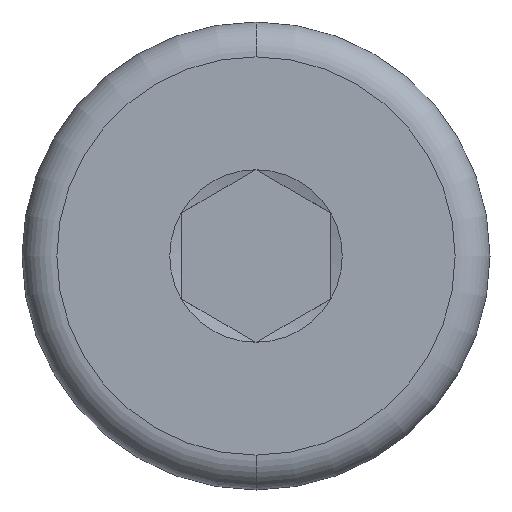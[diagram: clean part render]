
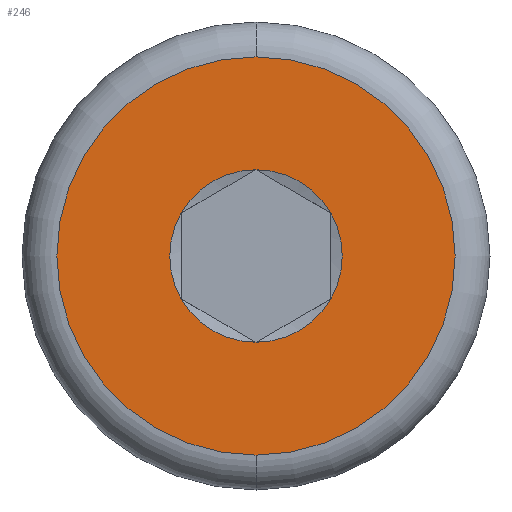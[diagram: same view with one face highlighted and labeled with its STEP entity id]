
A CAD part, left-side view. The second image highlights one B-rep face of the part: STEP entity #246.
In plain terms, the highlighted planar face has unit normal (-1, 0, 0).
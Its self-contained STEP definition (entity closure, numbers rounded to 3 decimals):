
#7 = CARTESIAN_POINT ( 'NONE',  ( 0., 0., 0. ) ) ;
#20 = CARTESIAN_POINT ( 'NONE',  ( 0., 0., 0. ) ) ;
#21 = AXIS2_PLACEMENT_3D ( 'NONE', #137, #41, #190 ) ;
#26 = FACE_OUTER_BOUND ( 'NONE', #520, .T. ) ;
#41 = DIRECTION ( 'NONE',  ( 1., 0., 0. ) ) ;
#46 = ORIENTED_EDGE ( 'NONE', *, *, #450, .T. ) ;
#81 = DIRECTION ( 'NONE',  ( 0., 0., -1. ) ) ;
#89 = CARTESIAN_POINT ( 'NONE',  ( 0., 0., 0. ) ) ;
#97 = CIRCLE ( 'NONE', #430, 4. ) ;
#106 = AXIS2_PLACEMENT_3D ( 'NONE', #255, #466, #315 ) ;
#112 = DIRECTION ( 'NONE',  ( 0., 0., -1. ) ) ;
#126 = AXIS2_PLACEMENT_3D ( 'NONE', #20, #562, #81 ) ;
#127 = ORIENTED_EDGE ( 'NONE', *, *, #476, .F. ) ;
#137 = CARTESIAN_POINT ( 'NONE',  ( 0., 0., 0. ) ) ;
#154 = ORIENTED_EDGE ( 'NONE', *, *, #301, .F. ) ;
#190 = DIRECTION ( 'NONE',  ( 0., 0., -1. ) ) ;
#196 = CARTESIAN_POINT ( 'NONE',  ( 0., 0., 1.732 ) ) ;
#209 = CARTESIAN_POINT ( 'NONE',  ( 0., -1.5, -0.866 ) ) ;
#216 = DIRECTION ( 'NONE',  ( 1., 0., 0. ) ) ;
#221 = CARTESIAN_POINT ( 'NONE',  ( 0., 0., 0. ) ) ;
#234 = EDGE_CURVE ( 'NONE', #465, #613, #527, .T. ) ;
#237 = ORIENTED_EDGE ( 'NONE', *, *, #663, .T. ) ;
#246 = ADVANCED_FACE ( 'NONE', ( #387, #26 ), #398, .T. ) ;
#248 = DIRECTION ( 'NONE',  ( 0., 0., -1. ) ) ;
#250 = ORIENTED_EDGE ( 'NONE', *, *, #441, .T. ) ;
#255 = CARTESIAN_POINT ( 'NONE',  ( 0., 0., 0. ) ) ;
#264 = CARTESIAN_POINT ( 'NONE',  ( 0., 1.5, -0.866 ) ) ;
#278 = DIRECTION ( 'NONE',  ( 1., 0., 0. ) ) ;
#301 = EDGE_CURVE ( 'NONE', #479, #318, #97, .T. ) ;
#304 = ORIENTED_EDGE ( 'NONE', *, *, #521, .T. ) ;
#315 = DIRECTION ( 'NONE',  ( 0., 0., -1. ) ) ;
#318 = VERTEX_POINT ( 'NONE', #579 ) ;
#329 = AXIS2_PLACEMENT_3D ( 'NONE', #221, #216, #332 ) ;
#332 = DIRECTION ( 'NONE',  ( 0., 0., -1. ) ) ;
#337 = VERTEX_POINT ( 'NONE', #196 ) ;
#355 = CARTESIAN_POINT ( 'NONE',  ( 0., 0., 0. ) ) ;
#361 = CIRCLE ( 'NONE', #329, 1.732 ) ;
#364 = ORIENTED_EDGE ( 'NONE', *, *, #234, .T. ) ;
#365 = DIRECTION ( 'NONE',  ( 1., 0., 0. ) ) ;
#374 = CARTESIAN_POINT ( 'NONE',  ( 0., -1.5, 0.866 ) ) ;
#379 = CARTESIAN_POINT ( 'NONE',  ( 0., 1.5, 0.866 ) ) ;
#387 = FACE_BOUND ( 'NONE', #497, .T. ) ;
#393 = AXIS2_PLACEMENT_3D ( 'NONE', #355, #463, #473 ) ;
#398 = PLANE ( 'NONE',  #404 ) ;
#404 = AXIS2_PLACEMENT_3D ( 'NONE', #89, #654, #500 ) ;
#410 = CARTESIAN_POINT ( 'NONE',  ( 0., 0., 0. ) ) ;
#425 = CARTESIAN_POINT ( 'NONE',  ( 0., 0., 4. ) ) ;
#430 = AXIS2_PLACEMENT_3D ( 'NONE', #410, #365, #248 ) ;
#441 = EDGE_CURVE ( 'NONE', #477, #452, #565, .T. ) ;
#450 = EDGE_CURVE ( 'NONE', #337, #571, #596, .T. ) ;
#452 = VERTEX_POINT ( 'NONE', #673 ) ;
#463 = DIRECTION ( 'NONE',  ( 1., 0., 0. ) ) ;
#464 = CIRCLE ( 'NONE', #126, 1.732 ) ;
#465 = VERTEX_POINT ( 'NONE', #264 ) ;
#466 = DIRECTION ( 'NONE',  ( 1., 0., 0. ) ) ;
#473 = DIRECTION ( 'NONE',  ( 0., 0., -1. ) ) ;
#476 = EDGE_CURVE ( 'NONE', #318, #479, #574, .T. ) ;
#477 = VERTEX_POINT ( 'NONE', #209 ) ;
#479 = VERTEX_POINT ( 'NONE', #425 ) ;
#495 = CIRCLE ( 'NONE', #632, 1.732 ) ;
#497 = EDGE_LOOP ( 'NONE', ( #304, #46, #580, #250, #237, #364 ) ) ;
#500 = DIRECTION ( 'NONE',  ( 0., 0., 1. ) ) ;
#520 = EDGE_LOOP ( 'NONE', ( #127, #154 ) ) ;
#521 = EDGE_CURVE ( 'NONE', #613, #337, #495, .T. ) ;
#527 = CIRCLE ( 'NONE', #21, 1.732 ) ;
#537 = DIRECTION ( 'NONE',  ( 1., 0., 0. ) ) ;
#554 = AXIS2_PLACEMENT_3D ( 'NONE', #639, #537, #112 ) ;
#562 = DIRECTION ( 'NONE',  ( 1., 0., 0. ) ) ;
#565 = CIRCLE ( 'NONE', #393, 1.732 ) ;
#571 = VERTEX_POINT ( 'NONE', #374 ) ;
#573 = EDGE_CURVE ( 'NONE', #571, #477, #361, .T. ) ;
#574 = CIRCLE ( 'NONE', #554, 4. ) ;
#579 = CARTESIAN_POINT ( 'NONE',  ( 0., 0., -4. ) ) ;
#580 = ORIENTED_EDGE ( 'NONE', *, *, #573, .T. ) ;
#596 = CIRCLE ( 'NONE', #106, 1.732 ) ;
#613 = VERTEX_POINT ( 'NONE', #379 ) ;
#629 = DIRECTION ( 'NONE',  ( 0., 0., -1. ) ) ;
#632 = AXIS2_PLACEMENT_3D ( 'NONE', #7, #278, #629 ) ;
#639 = CARTESIAN_POINT ( 'NONE',  ( 0., 0., 0. ) ) ;
#654 = DIRECTION ( 'NONE',  ( -1., 0., 0. ) ) ;
#663 = EDGE_CURVE ( 'NONE', #452, #465, #464, .T. ) ;
#673 = CARTESIAN_POINT ( 'NONE',  ( 0., 0., -1.732 ) ) ;
